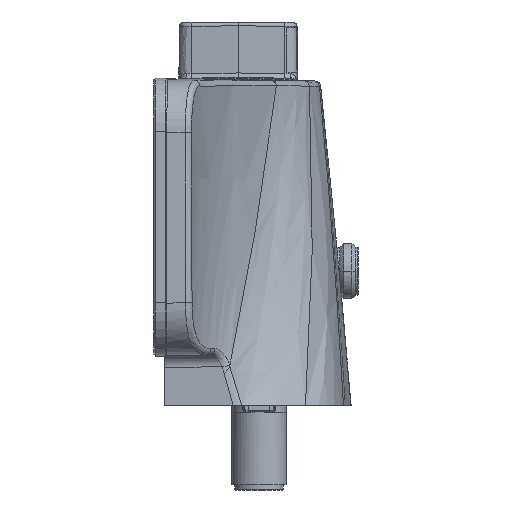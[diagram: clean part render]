
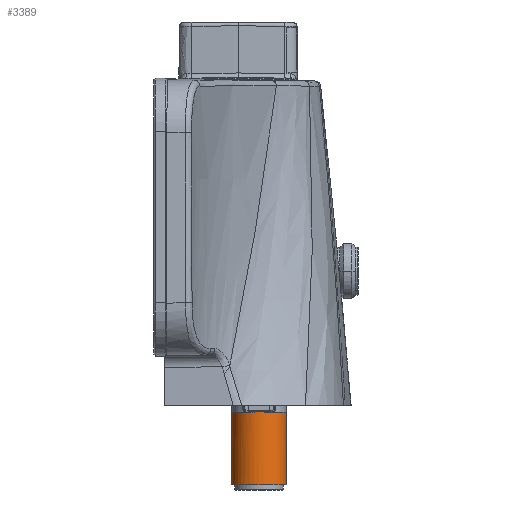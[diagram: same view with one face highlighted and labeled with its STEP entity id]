
A CAD part, left-side view. The second image highlights one B-rep face of the part: STEP entity #3389.
In plain terms, the highlighted cylindrical face has radius 10.477 mm (diameter 20.955 mm), a partial arc.
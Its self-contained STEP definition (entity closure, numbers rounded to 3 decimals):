
#42 = ORIENTED_EDGE ( 'NONE', *, *, #2170, .T. ) ;
#293 = VERTEX_POINT ( 'NONE', #15802 ) ;
#970 = CARTESIAN_POINT ( 'NONE',  ( -85.242, -30.773, -4. ) ) ;
#1210 = CARTESIAN_POINT ( 'NONE',  ( -85.64, -35.212, -3.807 ) ) ;
#1270 = CARTESIAN_POINT ( 'NONE',  ( -85.705, -33.353, -3.684 ) ) ;
#1339 = CARTESIAN_POINT ( 'NONE',  ( -75.242, -23.422, -31.5 ) ) ;
#1343 = CARTESIAN_POINT ( 'NONE',  ( -85.6, -32.322, -3.849 ) ) ;
#1551 = EDGE_CURVE ( 'NONE', #9522, #10939, #8444, .T. ) ;
#2170 = EDGE_CURVE ( 'NONE', #21714, #293, #18613, .T. ) ;
#2288 = B_SPLINE_CURVE_WITH_KNOTS ( 'NONE', 3,
 ( #14795, #2832, #13059, #4556, #16513, #6297, #18301, #8034, #20043, #9731, #21777, #11398, #1210, #13134, #2900, #14876, #4633, #16594, #6364, #18378, #8111, #20121, #9803, #21839, #11473, #1270, #13209, #2976, #14954, #4707, #16671, #6439, #18451, #8186, #20190, #9867, #21913, #11547, #1343, #13281, #3054, #15032, #4781, #16752, #6518, #18524, #8254, #20263, #9942 ),
 .UNSPECIFIED., .F., .F.,
 ( 4, 2, 2, 1, 1, 1, 2, 2, 2, 1, 1, 1, 1, 2, 2, 2, 1, 1, 1, 2, 2, 1, 1, 1, 1, 2, 2, 2, 2, 2, 1, 4 ),
 ( 0., 0.125, 0.188, 0.219, 0.234, 0.242, 0.246, 0.25, 0.375, 0.437, 0.469, 0.484, 0.492, 0.496, 0.5, 0.562, 0.594, 0.609, 0.617, 0.621, 0.625, 0.688, 0.719, 0.734, 0.742, 0.746, 0.75, 0.875, 0.891, 0.906, 0.938, 1. ),
 .UNSPECIFIED. ) ;
#2740 = CARTESIAN_POINT ( 'NONE',  ( -75.242, -44.377, -31.5 ) ) ;
#2832 = CARTESIAN_POINT ( 'NONE',  ( -85.303, -36.831, -4. ) ) ;
#2900 = CARTESIAN_POINT ( 'NONE',  ( -85.699, -34.554, -3.694 ) ) ;
#2976 = CARTESIAN_POINT ( 'NONE',  ( -85.693, -33.162, -3.71 ) ) ;
#3054 = CARTESIAN_POINT ( 'NONE',  ( -85.519, -31.841, -3.925 ) ) ;
#3389 = ADVANCED_FACE ( 'NONE', ( #19155 ), #18592, .T. ) ;
#3796 = ORIENTED_EDGE ( 'NONE', *, *, #15762, .F. ) ;
#3998 = ORIENTED_EDGE ( 'NONE', *, *, #8933, .T. ) ;
#4556 = CARTESIAN_POINT ( 'NONE',  ( -85.461, -36.216, -3.949 ) ) ;
#4633 = CARTESIAN_POINT ( 'NONE',  ( -85.717, -34.123, -3.653 ) ) ;
#4707 = CARTESIAN_POINT ( 'NONE',  ( -85.69, -33.114, -3.717 ) ) ;
#4781 = CARTESIAN_POINT ( 'NONE',  ( -85.437, -31.483, -3.961 ) ) ;
#4791 = ORIENTED_EDGE ( 'NONE', *, *, #14695, .F. ) ;
#5732 = CARTESIAN_POINT ( 'NONE',  ( -75.242, -33.9, -4. ) ) ;
#6297 = CARTESIAN_POINT ( 'NONE',  ( -85.534, -35.861, -3.905 ) ) ;
#6364 = CARTESIAN_POINT ( 'NONE',  ( -85.719, -33.947, -3.648 ) ) ;
#6439 = CARTESIAN_POINT ( 'NONE',  ( -85.678, -32.965, -3.74 ) ) ;
#6518 = CARTESIAN_POINT ( 'NONE',  ( -85.411, -31.376, -3.972 ) ) ;
#7482 = DIRECTION ( 'NONE',  ( 0., -1., 0. ) ) ;
#7781 = DIRECTION ( 'NONE',  ( 0., 0., -1. ) ) ;
#8034 = CARTESIAN_POINT ( 'NONE',  ( -85.578, -35.613, -3.87 ) ) ;
#8111 = CARTESIAN_POINT ( 'NONE',  ( -85.719, -33.905, -3.648 ) ) ;
#8186 = CARTESIAN_POINT ( 'NONE',  ( -85.631, -32.542, -3.81 ) ) ;
#8201 = DIRECTION ( 'NONE',  ( 0., 0., 1. ) ) ;
#8254 = CARTESIAN_POINT ( 'NONE',  ( -85.333, -31.077, -3.994 ) ) ;
#8444 = CIRCLE ( 'NONE', #12281, 10.478 ) ;
#8447 = DIRECTION ( 'NONE',  ( 0., 0., 1. ) ) ;
#8933 = EDGE_CURVE ( 'NONE', #16750, #10939, #2288, .T. ) ;
#9336 = CARTESIAN_POINT ( 'NONE',  ( -75.242, -23.422, 29.5 ) ) ;
#9389 = AXIS2_PLACEMENT_3D ( 'NONE', #18050, #7781, #19798 ) ;
#9522 = VERTEX_POINT ( 'NONE', #17201 ) ;
#9731 = CARTESIAN_POINT ( 'NONE',  ( -85.594, -35.513, -3.855 ) ) ;
#9803 = CARTESIAN_POINT ( 'NONE',  ( -85.719, -33.777, -3.649 ) ) ;
#9867 = CARTESIAN_POINT ( 'NONE',  ( -85.607, -32.372, -3.84 ) ) ;
#9942 = CARTESIAN_POINT ( 'NONE',  ( -85.242, -30.773, -4. ) ) ;
#10765 = CARTESIAN_POINT ( 'NONE',  ( -85.242, -37.027, -4. ) ) ;
#10939 = VERTEX_POINT ( 'NONE', #970 ) ;
#10990 = DIRECTION ( 'NONE',  ( 0., 0., 1. ) ) ;
#11385 = ORIENTED_EDGE ( 'NONE', *, *, #15910, .F. ) ;
#11392 = CIRCLE ( 'NONE', #12906, 10.478 ) ;
#11398 = CARTESIAN_POINT ( 'NONE',  ( -85.599, -35.481, -3.85 ) ) ;
#11473 = CARTESIAN_POINT ( 'NONE',  ( -85.71, -33.456, -3.673 ) ) ;
#11547 = CARTESIAN_POINT ( 'NONE',  ( -85.601, -32.331, -3.847 ) ) ;
#12281 = AXIS2_PLACEMENT_3D ( 'NONE', #16656, #16627, #16579 ) ;
#12906 = AXIS2_PLACEMENT_3D ( 'NONE', #5732, #17742, #7482 ) ;
#13059 = CARTESIAN_POINT ( 'NONE',  ( -85.368, -36.605, -3.987 ) ) ;
#13134 = CARTESIAN_POINT ( 'NONE',  ( -85.67, -34.949, -3.764 ) ) ;
#13209 = CARTESIAN_POINT ( 'NONE',  ( -85.698, -33.227, -3.7 ) ) ;
#13281 = CARTESIAN_POINT ( 'NONE',  ( -85.565, -32.096, -3.89 ) ) ;
#13968 = ORIENTED_EDGE ( 'NONE', *, *, #1551, .F. ) ;
#14695 = EDGE_CURVE ( 'NONE', #16750, #293, #11392, .T. ) ;
#14795 = CARTESIAN_POINT ( 'NONE',  ( -85.242, -37.027, -4. ) ) ;
#14876 = CARTESIAN_POINT ( 'NONE',  ( -85.711, -34.356, -3.668 ) ) ;
#14888 = LINE ( 'NONE', #9336, #20588 ) ;
#14954 = CARTESIAN_POINT ( 'NONE',  ( -85.691, -33.133, -3.714 ) ) ;
#15032 = CARTESIAN_POINT ( 'NONE',  ( -85.445, -31.519, -3.958 ) ) ;
#15214 = CARTESIAN_POINT ( 'NONE',  ( -75.242, -33.9, 29.5 ) ) ;
#15421 = CIRCLE ( 'NONE', #9389, 10.478 ) ;
#15591 = VERTEX_POINT ( 'NONE', #1339 ) ;
#15762 = EDGE_CURVE ( 'NONE', #21714, #15591, #15421, .T. ) ;
#15802 = CARTESIAN_POINT ( 'NONE',  ( -75.242, -44.377, -4. ) ) ;
#15910 = EDGE_CURVE ( 'NONE', #15591, #9522, #14888, .T. ) ;
#16513 = CARTESIAN_POINT ( 'NONE',  ( -85.491, -36.079, -3.934 ) ) ;
#16579 = DIRECTION ( 'NONE',  ( 0., -1., 0. ) ) ;
#16594 = CARTESIAN_POINT ( 'NONE',  ( -85.719, -34.006, -3.649 ) ) ;
#16627 = DIRECTION ( 'NONE',  ( 0., 0., 1. ) ) ;
#16656 = CARTESIAN_POINT ( 'NONE',  ( -75.242, -33.9, -4. ) ) ;
#16671 = CARTESIAN_POINT ( 'NONE',  ( -85.689, -33.104, -3.718 ) ) ;
#16750 = VERTEX_POINT ( 'NONE', #10765 ) ;
#16752 = CARTESIAN_POINT ( 'NONE',  ( -85.419, -31.409, -3.969 ) ) ;
#17201 = CARTESIAN_POINT ( 'NONE',  ( -75.242, -23.422, -4. ) ) ;
#17514 = AXIS2_PLACEMENT_3D ( 'NONE', #15214, #8447, #20371 ) ;
#17742 = DIRECTION ( 'NONE',  ( 0., 0., 1. ) ) ;
#18050 = CARTESIAN_POINT ( 'NONE',  ( -75.242, -33.9, -31.5 ) ) ;
#18073 = VECTOR ( 'NONE', #8201, 1000. ) ;
#18301 = CARTESIAN_POINT ( 'NONE',  ( -85.555, -35.749, -3.89 ) ) ;
#18378 = CARTESIAN_POINT ( 'NONE',  ( -85.719, -33.922, -3.648 ) ) ;
#18451 = CARTESIAN_POINT ( 'NONE',  ( -85.659, -32.769, -3.771 ) ) ;
#18524 = CARTESIAN_POINT ( 'NONE',  ( -85.385, -31.275, -3.98 ) ) ;
#18592 = CYLINDRICAL_SURFACE ( 'NONE', #17514, 10.478 ) ;
#18613 = LINE ( 'NONE', #18616, #18073 ) ;
#18616 = CARTESIAN_POINT ( 'NONE',  ( -75.242, -44.377, 29.5 ) ) ;
#19155 = FACE_OUTER_BOUND ( 'NONE', #19756, .T. ) ;
#19756 = EDGE_LOOP ( 'NONE', ( #11385, #3796, #42, #4791, #3998, #13968 ) ) ;
#19798 = DIRECTION ( 'NONE',  ( 0., 1., 0. ) ) ;
#20043 = CARTESIAN_POINT ( 'NONE',  ( -85.589, -35.543, -3.859 ) ) ;
#20121 = CARTESIAN_POINT ( 'NONE',  ( -85.719, -33.895, -3.648 ) ) ;
#20190 = CARTESIAN_POINT ( 'NONE',  ( -85.615, -32.429, -3.83 ) ) ;
#20263 = CARTESIAN_POINT ( 'NONE',  ( -85.279, -30.891, -4. ) ) ;
#20371 = DIRECTION ( 'NONE',  ( 0., -1., 0. ) ) ;
#20588 = VECTOR ( 'NONE', #10990, 1000. ) ;
#21714 = VERTEX_POINT ( 'NONE', #2740 ) ;
#21777 = CARTESIAN_POINT ( 'NONE',  ( -85.597, -35.493, -3.851 ) ) ;
#21839 = CARTESIAN_POINT ( 'NONE',  ( -85.717, -33.655, -3.655 ) ) ;
#21913 = CARTESIAN_POINT ( 'NONE',  ( -85.603, -32.348, -3.844 ) ) ;
